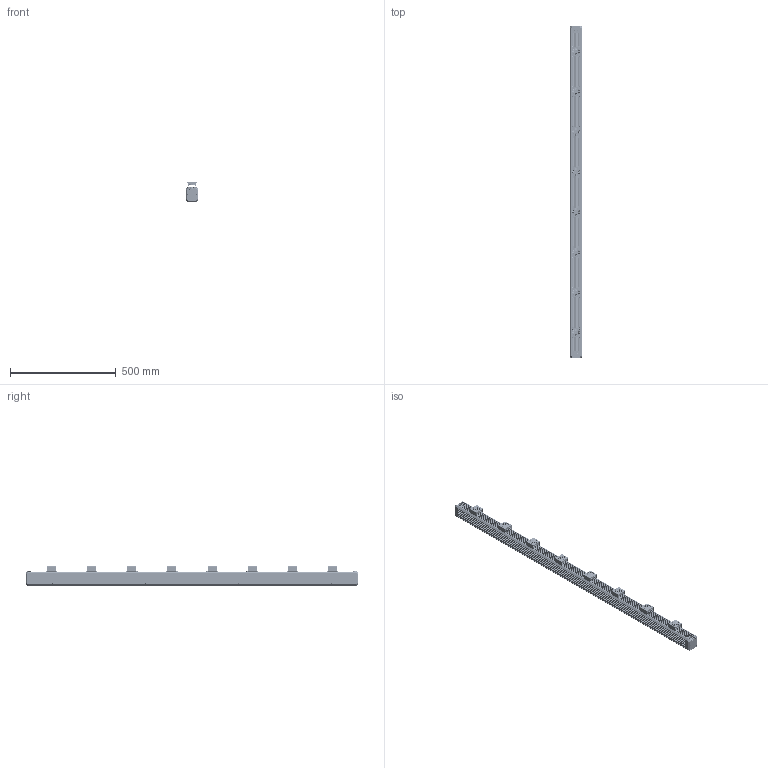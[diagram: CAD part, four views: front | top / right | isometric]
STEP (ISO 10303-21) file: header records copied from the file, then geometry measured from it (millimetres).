
FILE_DESCRIPTION((''),'2;1');
FILE_NAME('MV-LTDS-H-1500-W_ASM_1_ASM','2025-06-03T15:30:30',('huguozhe'),(''),'CREO PARAMETRIC BY PTC INC, 2020044','CREO PARAMETRIC BY PTC INC, 2020044','');
FILE_SCHEMA(('AUTOMOTIVE_DESIGN { 1 0 10303 214 1 1 1 1 }'));
Products named in the file (25): DE-15-000669_1; DE-15-000668_ASM_1_ASM; DE-15-000671_1; DE-15-000670_ASM_1_ASM; SC-HSCM3X6B-GB70_1_1; DE-12-001698_1; SC-AM3X10NL-BNI-SCM435-GB70_1_1; SC-HSCM3X8-SUS316_1; DE-11-019911_1; 8002-CLS-M3-1_1; DE-11-019911_ASM_1_ASM; 101800527_01_1; 101800527_02_1; 101800527_MGA4012HB-O10_ASM_1_ASM; SC-ASFM3X14NL-BNI-SUS316L_1; NUT-M4-GB6170_1; DE-14-015560_1_1_1; DE-14-016113_ASM_1_1_ASM_1_ASM; DE-14-016113_ASM_ASM_1_ASM; 19M-H_2_1_1_1; 19M-8H-8P_1_1; 19M-8H_ASM_1_ASM_1_ASM; 19M-8H_ASM_ASM_1_ASM; DE-14-016113-19M-8H_ASM; MV-LTDS-H-1500-W_ASM_1_ASM
Assembly tree (140 placements, depth 5):
  MV-LTDS-H-1500-W_ASM_1_ASM
    DE-15-000668_ASM_1_ASM
      DE-15-000669_1
    DE-15-000670_ASM_1_ASM  x2
      DE-15-000671_1
    SC-HSCM3X6B-GB70_1_1  x14
    DE-12-001698_1
    SC-AM3X10NL-BNI-SCM435-GB70_1_1  x40
    SC-HSCM3X8-SUS316_1  x8
    DE-11-019911_ASM_1_ASM  x8
      DE-11-019911_1
      8002-CLS-M3-1_1
    101800527_MGA4012HB-O10_ASM_1_ASM  x8
      101800527_01_1
      101800527_02_1
    SC-ASFM3X14NL-BNI-SUS316L_1  x32
    NUT-M4-GB6170_1  x8
    DE-14-016113-19M-8H_ASM  x2
      DE-14-016113_ASM_ASM_1_ASM
        DE-14-016113_ASM_1_1_ASM_1_ASM
          DE-14-015560_1_1_1
      19M-8H_ASM_ASM_1_ASM
        19M-8H_ASM_1_ASM_1_ASM
          19M-H_2_1_1_1
          19M-8H-8P_1_1
Bounding box: 58 x 1570 x 90.6 mm (x, y, z)
Volume: 4836326.2 mm3; surface area: 1328709 mm2
Topology: 168 solids, 470 shells, 9104 faces, 24304 edges, 15692 vertices
Faces by surface type: plane 4122, cylinder 3250, cone 1164, torus 452, bspline 84, sphere 32
Entity records: 93939 total; most frequent: CARTESIAN_POINT 30610, DIRECTION 12481, ORIENTED_EDGE 10664, EDGE_CURVE 5578, AXIS2_PLACEMENT_3D 4909, VERTEX_POINT 3711, VECTOR 2663, LINE 2663
